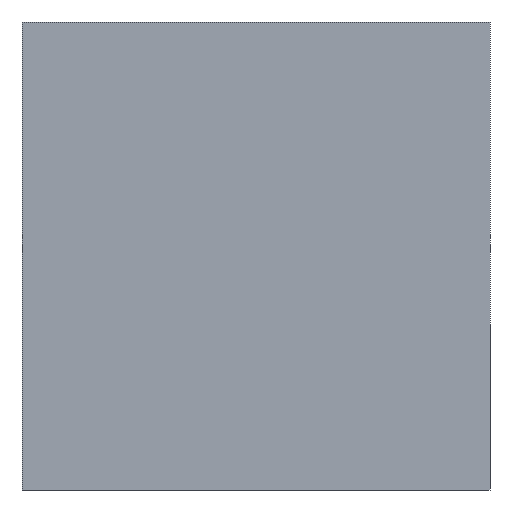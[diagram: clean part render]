
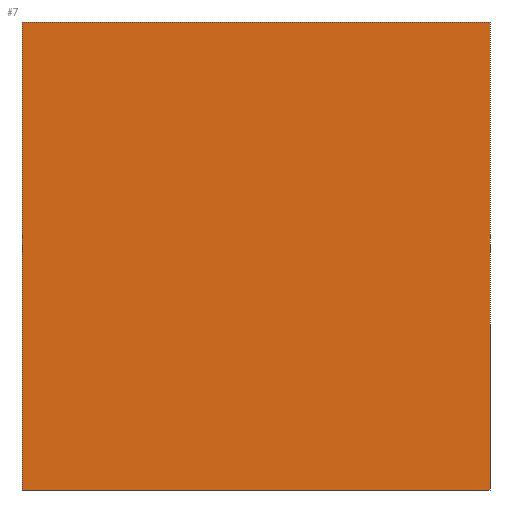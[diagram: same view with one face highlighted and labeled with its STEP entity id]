
A CAD part, left-side view. The second image highlights one B-rep face of the part: STEP entity #7.
In plain terms, the highlighted planar face has unit normal (-1, 0, 0).
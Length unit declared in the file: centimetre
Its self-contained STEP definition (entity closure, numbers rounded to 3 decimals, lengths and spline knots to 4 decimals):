
#7 = ADVANCED_FACE ( 'NONE', ( #571 ), #366, .F. ) ;
#42 = DIRECTION ( 'NONE',  ( 0., 0., -1. ) ) ;
#74 = CARTESIAN_POINT ( 'NONE',  ( 0., 1000., 1000. ) ) ;
#79 = LINE ( 'NONE', #670, #430 ) ;
#85 = DIRECTION ( 'NONE',  ( 0., 0., -1. ) ) ;
#87 = DIRECTION ( 'NONE',  ( 0., -1., 0. ) ) ;
#93 = CARTESIAN_POINT ( 'NONE',  ( 0., 1000., 1000. ) ) ;
#103 = AXIS2_PLACEMENT_3D ( 'NONE', #93, #142, #85 ) ;
#139 = ORIENTED_EDGE ( 'NONE', *, *, #674, .T. ) ;
#142 = DIRECTION ( 'NONE',  ( 1., 0., 0. ) ) ;
#147 = DIRECTION ( 'NONE',  ( 0., -1., 0. ) ) ;
#174 = ORIENTED_EDGE ( 'NONE', *, *, #506, .F. ) ;
#198 = CARTESIAN_POINT ( 'NONE',  ( 0., 1000., 0. ) ) ;
#213 = VERTEX_POINT ( 'NONE', #541 ) ;
#215 = VECTOR ( 'NONE', #87, 100. ) ;
#288 = VECTOR ( 'NONE', #147, 100. ) ;
#320 = EDGE_LOOP ( 'NONE', ( #139, #524, #174, #531 ) ) ;
#343 = VERTEX_POINT ( 'NONE', #503 ) ;
#357 = CARTESIAN_POINT ( 'NONE',  ( 0., 1000., 1000. ) ) ;
#366 = PLANE ( 'NONE',  #103 ) ;
#430 = VECTOR ( 'NONE', #42, 100. ) ;
#462 = LINE ( 'NONE', #74, #512 ) ;
#468 = CARTESIAN_POINT ( 'NONE',  ( 0., 1000., 1000. ) ) ;
#503 = CARTESIAN_POINT ( 'NONE',  ( 0., 0., 1000. ) ) ;
#506 = EDGE_CURVE ( 'NONE', #621, #343, #619, .T. ) ;
#511 = DIRECTION ( 'NONE',  ( 0., 0., -1. ) ) ;
#512 = VECTOR ( 'NONE', #511, 100. ) ;
#520 = CARTESIAN_POINT ( 'NONE',  ( 0., 1000., 0. ) ) ;
#524 = ORIENTED_EDGE ( 'NONE', *, *, #623, .F. ) ;
#531 = ORIENTED_EDGE ( 'NONE', *, *, #642, .T. ) ;
#541 = CARTESIAN_POINT ( 'NONE',  ( 0., 0., 0. ) ) ;
#568 = LINE ( 'NONE', #198, #215 ) ;
#571 = FACE_OUTER_BOUND ( 'NONE', #320, .T. ) ;
#619 = LINE ( 'NONE', #357, #288 ) ;
#621 = VERTEX_POINT ( 'NONE', #468 ) ;
#623 = EDGE_CURVE ( 'NONE', #343, #213, #79, .T. ) ;
#641 = VERTEX_POINT ( 'NONE', #520 ) ;
#642 = EDGE_CURVE ( 'NONE', #621, #641, #462, .T. ) ;
#670 = CARTESIAN_POINT ( 'NONE',  ( 0., 0., 1000. ) ) ;
#674 = EDGE_CURVE ( 'NONE', #641, #213, #568, .T. ) ;
